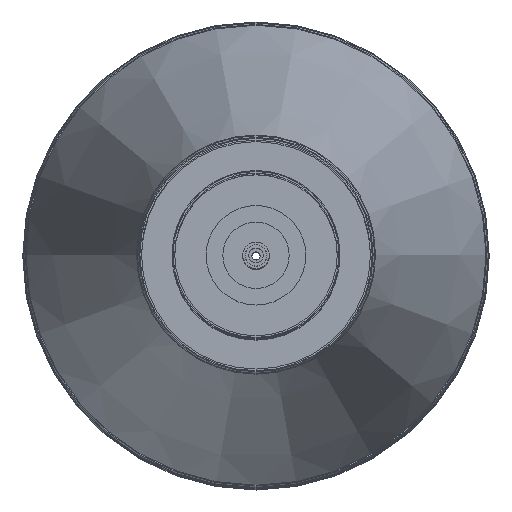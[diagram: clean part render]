
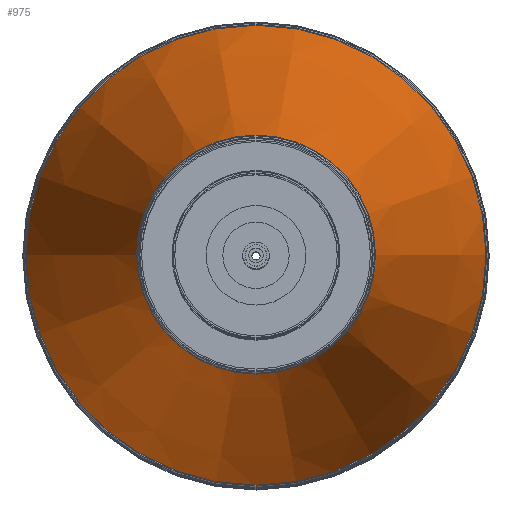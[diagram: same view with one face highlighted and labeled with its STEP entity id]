
A CAD part, top view. The second image highlights one B-rep face of the part: STEP entity #975.
In plain terms, the highlighted conical face has half-angle 16.928 degrees and reference radius 70 mm.
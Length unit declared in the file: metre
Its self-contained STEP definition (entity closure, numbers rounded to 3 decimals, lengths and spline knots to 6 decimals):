
#975 = ADVANCED_FACE( '', ( #1978, #1979 ), #1980, .T. );
#1978 = FACE_OUTER_BOUND( '', #3054, .T. );
#1979 = FACE_BOUND( '', #3055, .T. );
#1980 = CONICAL_SURFACE( '', #3056, 0.07, 0.295 );
#3054 = EDGE_LOOP( '', ( #4534 ) );
#3055 = EDGE_LOOP( '', ( #4535 ) );
#3056 = AXIS2_PLACEMENT_3D( '', #4536, #4537, #4538 );
#4534 = ORIENTED_EDGE( '', *, *, #5098, .F. );
#4535 = ORIENTED_EDGE( '', *, *, #5099, .T. );
#4536 = CARTESIAN_POINT( '', ( 0., 0., 0.115 ) );
#4537 = DIRECTION( '', ( 0., 0., -1. ) );
#4538 = DIRECTION( '', ( -1., 0., 0. ) );
#5098 = EDGE_CURVE( '', #5899, #5899, #5900, .T. );
#5099 = EDGE_CURVE( '', #5901, #5901, #5902, .T. );
#5899 = VERTEX_POINT( '', #36257 );
#5900 = CIRCLE( '', #36258, 0.14 );
#5901 = VERTEX_POINT( '', #36259 );
#5902 = CIRCLE( '', #36260, 0.07 );
#36257 = CARTESIAN_POINT( '', ( -0.14, 0., -0.115 ) );
#36258 = AXIS2_PLACEMENT_3D( '', #36531, #36532, #36533 );
#36259 = CARTESIAN_POINT( '', ( -0.07, 0., 0.115 ) );
#36260 = AXIS2_PLACEMENT_3D( '', #36534, #36535, #36536 );
#36531 = CARTESIAN_POINT( '', ( 0., 0., -0.115 ) );
#36532 = DIRECTION( '', ( 0., 0., -1. ) );
#36533 = DIRECTION( '', ( -1., 0., 0. ) );
#36534 = CARTESIAN_POINT( '', ( 0., 0., 0.115 ) );
#36535 = DIRECTION( '', ( 0., 0., -1. ) );
#36536 = DIRECTION( '', ( -1., 0., 0. ) );
